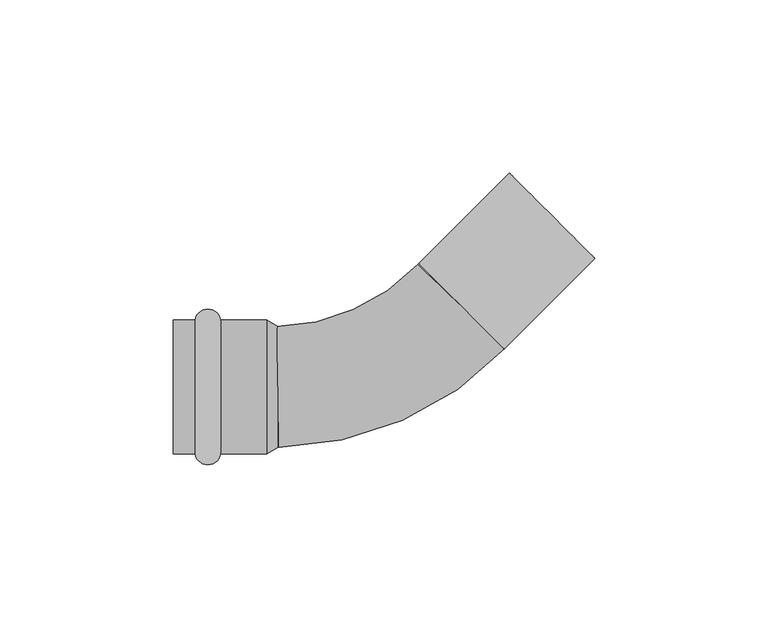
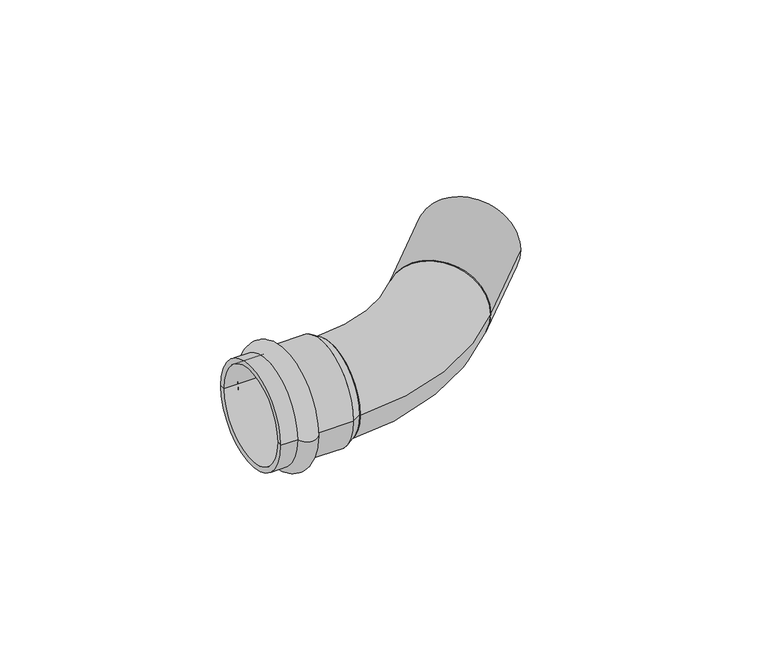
"""IFC4 building model written with IfcOpenShell, lengths in millimetres: pipe fitting geometry, VALTEC_VTi.958.I_Угольник 45° (раструб–труба) нержавеющая сталь. : VTi.958.I."""

from ifc_helpers import new_model, si_unit, point, frame, origin, origin_2d, place, context, project, spatial, polyline, circle_curve, ellipse_curve, trimmed, segment, composite_curve, outline, extrude, source, transform, mapped, element, save
from ifc_brep_helpers import plane_surface, cylinder_surface, revolved_surface, advanced_brep


def pipe_fitting_01824ef5(model_context):
    return source(origin(), model_context, "Body", "SolidModel", [
        advanced_brep(
        [(-53.6432371, -19.4, 0.0), (-53.6432371, 19.4, 0.0), (-46.2567629, 19.4, 0.0), (-46.2567629, -19.4, 0.0), (-60.0, -19.4, 0.0), (-60.0, 19.4, 0.0), (-60.0, -17.5, 0.0), (-60.0, 17.5, 0.0), (-33.0, -17.5, 0.0), (-33.0, 17.5, 0.0), (-33.0, -19.4, 0.0), (-33.0, 19.4, 0.0)],
        [
            (0, 1, circle_curve(frame((-53.6432371, 0.0, 0.0), z_axis=(1.0, 0.0, 0.0), x_axis=(0.0, 1.0, 0.0)), 19.4)),
            (1, 2, circle_curve(frame((-49.95, 18.75, 0.0), z_axis=(0.0, 0.0, -1.0), x_axis=(1.0, 0.0, 0.0)), 3.75)),
            (2, 3, circle_curve(frame((-46.2567629, 0.0, 0.0), z_axis=(-1.0, 0.0, 0.0), x_axis=(0.0, 1.0, 0.0)), 19.4)),
            (3, 0, circle_curve(frame((-49.95, -18.75, 0.0), z_axis=(0.0, 0.0, -1.0), x_axis=(1.0, 0.0, 0.0)), 3.75)),
            (1, 0, circle_curve(frame((-53.6432371, 0.0, 0.0), z_axis=(1.0, 0.0, 0.0), x_axis=(0.0, 1.0, 0.0)), 19.4)),
            (3, 2, circle_curve(frame((-46.2567629, 0.0, 0.0), z_axis=(-1.0, 0.0, 0.0), x_axis=(0.0, 1.0, 0.0)), 19.4)),
            (4, 5, circle_curve(frame((-60.0, 0.0, 0.0), z_axis=(1.0, 0.0, 0.0), x_axis=(0.0, 1.0, 0.0)), 19.4)),
            (5, 1),
            (0, 4),
            (5, 4, circle_curve(frame((-60.0, 0.0, 0.0), z_axis=(1.0, 0.0, 0.0), x_axis=(0.0, 1.0, 0.0)), 19.4)),
            (6, 7, circle_curve(frame((-60.0, 0.0, 0.0), z_axis=(1.0, 0.0, 0.0), x_axis=(0.0, 1.0, 0.0)), 17.5)),
            (7, 5),
            (4, 6),
            (7, 6, circle_curve(frame((-60.0, 0.0, 0.0), z_axis=(1.0, 0.0, 0.0), x_axis=(0.0, 1.0, 0.0)), 17.5)),
            (8, 9, circle_curve(frame((-33.0, 0.0, 0.0), z_axis=(1.0, 0.0, 0.0), x_axis=(0.0, 1.0, 0.0)), 17.5)),
            (9, 7),
            (6, 8),
            (9, 8, circle_curve(frame((-33.0, 0.0, 0.0), z_axis=(1.0, 0.0, 0.0), x_axis=(0.0, 1.0, 0.0)), 17.5)),
            (10, 11, circle_curve(frame((-33.0, 0.0, 0.0), z_axis=(1.0, 0.0, 0.0), x_axis=(0.0, 1.0, 0.0)), 19.4)),
            (11, 9),
            (8, 10),
            (11, 10, circle_curve(frame((-33.0, 0.0, 0.0), z_axis=(1.0, 0.0, 0.0), x_axis=(0.0, 1.0, 0.0)), 19.4)),
            (2, 11),
            (10, 3),
        ],
        [
            revolved_surface(trimmed(ellipse_curve(frame((-49.95, 18.75, 0.0), z_axis=(0.0, 0.0, 1.0), x_axis=(1.0, 0.0, 0.0)), 3.75, 3.75), [point((-46.2567629, 19.4, 0.0))], [point((-53.6432371, 19.4, 0.0))], True, "CARTESIAN"), (-63.5364426, 0.0, 0.0), (-1.0, 0.0, 0.0)),
            cylinder_surface(frame((-63.5364426, 0.0, 0.0), z_axis=(-1.0, 0.0, 0.0), x_axis=(0.0, 1.0, 0.0)), 19.4),
            plane_surface(frame((-60.0, 0.0, 0.0), z_axis=(-1.0, 0.0, 0.0), x_axis=(0.0, 1.0, 0.0))),
            revolved_surface(polyline([(-60.0, 17.5, 0.0), (-33.0, 17.5, 0.0)]), (-63.5364426, 0.0, 0.0), (-1.0, 0.0, 0.0)),
            plane_surface(frame((-33.0, 0.0, 0.0), z_axis=(1.0, 0.0, 0.0), x_axis=(0.0, 1.0, 0.0))),
        ],
        [
            (0, [[1, 2, 3, 4]]),
            (0, [[5, -4, 6, -2]]),
            (1, [[7, 8, -1, 9]]),
            (1, [[10, -9, -5, -8]]),
            (2, [[11, 12, -7, 13]]),
            (2, [[14, -13, -10, -12]]),
            (3, [[15, 16, -11, 17]]),
            (3, [[18, -17, -14, -16]]),
            (4, [[19, 20, -15, 21]]),
            (4, [[22, -21, -18, -20]]),
            (1, [[-3, 23, -19, 24]]),
            (1, [[-6, -24, -22, -23]]),
        ],
    ),
        extrude(outline(composite_curve([segment(trimmed(circle_curve(origin_2d(), 17.5), [point((0.0, -17.5))], [point((0.0, 17.5))], False, "CARTESIAN"), True, "CONTINUOUS"), segment(trimmed(circle_curve(origin_2d(), 17.5), [point((0.0, 17.5))], [point((0.0, -17.5))], False, "CARTESIAN"), True, "CONTINUOUS")], self_intersect=False)), frame((23.3345238, 23.3345238, 0.0), z_axis=(0.707106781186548, 0.707106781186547, 0.0), x_axis=(0.0, 0.0, 1.0)), (0.0, 0.0, 1.0), 37.0),
        advanced_brep(
        [(-29.4062423, -17.4975343, 0.0), (-29.9937577, 17.4975343, 0.0), (36.0361334, 11.2962884, 0.0), (10.6329141, 35.3727592, 0.0)],
        [
            (0, 1, circle_curve(frame((-29.7, 0.0, 0.0), z_axis=(-0.999859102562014, -0.01678615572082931, 0.0), x_axis=(-0.01678615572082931, 0.999859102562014, 0.0)), 17.5)),
            (1, 0, circle_curve(frame((-29.7, 0.0, 0.0), z_axis=(-0.999859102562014, -0.01678615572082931, 0.0), x_axis=(-0.01678615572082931, 0.999859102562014, 0.0)), 17.5)),
            (2, 3, circle_curve(frame((23.3345238, 23.3345238, 0.0), z_axis=(0.6878991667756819, 0.725806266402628, 0.0), x_axis=(-0.725806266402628, 0.6878991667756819, 0.0)), 17.5)),
            (3, 2, circle_curve(frame((23.3345238, 23.3345238, 0.0), z_axis=(0.6878991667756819, 0.725806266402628, 0.0), x_axis=(-0.725806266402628, 0.6878991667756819, 0.0)), 17.5)),
            (3, 1, circle_curve(frame((-30.9556002, 74.7892063, 0.0), z_axis=(0.0, 0.0, -1.0), x_axis=(0.016786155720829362, -0.999859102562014, 0.0)), 57.2997454)),
            (0, 2, circle_curve(frame((-30.9556002, 74.7892063, 0.0), z_axis=(0.0, 0.0, 1.0), x_axis=(0.016786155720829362, -0.999859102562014, 0.0)), 92.2997454)),
        ],
        [
            plane_surface(frame((-29.7, 0.0, 0.0), z_axis=(-0.999859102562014, -0.01678615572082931, 0.0), x_axis=(0.0, 0.0, 1.0))),
            plane_surface(frame((23.3345238, 23.3345238, 0.0), z_axis=(0.6878991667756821, 0.7258062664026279, 0.0), x_axis=(0.0, 0.0, 1.0))),
            revolved_surface(trimmed(ellipse_curve(frame((-29.7, 0.0, 0.0), z_axis=(-0.999859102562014, -0.01678615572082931, 0.0), x_axis=(-0.01678615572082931, 0.999859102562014, 0.0)), 17.5, 17.5), [point((-29.4062423, -17.4975343, 0.0))], [point((-29.9937577, 17.4975343, 0.0))], True, "CARTESIAN"), (-30.9556002, 74.7892063, 0.0), (0.0, 0.0, 1.0)),
            revolved_surface(trimmed(ellipse_curve(frame((-29.7, 0.0, 0.0), z_axis=(-0.999859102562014, -0.01678615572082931, 0.0), x_axis=(-0.01678615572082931, 0.999859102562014, 0.0)), 17.5, 17.5), [point((-29.9937577, 17.4975343, 0.0))], [point((-29.4062423, -17.4975343, 0.0))], True, "CARTESIAN"), (-30.9556002, 74.7892063, 0.0), (0.0, 0.0, 1.0)),
        ],
        [
            (0, [[1, 2]]),
            (1, [[3, 4]]),
            (2, [[5, -1, 6, -4]]),
            (3, [[-6, -2, -5, -3]]),
        ],
    ),
        advanced_brep(
        [(-33.0, -19.4, 0.0), (-33.0, 19.4, 0.0), (-29.7, -17.5, 0.0), (-29.7, 17.5, 0.0)],
        [
            (0, 1, circle_curve(frame((-33.0, 0.0, 0.0), z_axis=(-1.0, 0.0, 0.0), x_axis=(0.0, -1.0, 0.0)), 19.4)),
            (1, 0, circle_curve(frame((-33.0, 0.0, 0.0), z_axis=(-1.0, 0.0, 0.0), x_axis=(0.0, 1.0, 0.0)), 19.4)),
            (2, 3, circle_curve(frame((-29.7, 0.0, 0.0), z_axis=(1.0, 0.0, 0.0), x_axis=(0.0, 1.0, 0.0)), 17.5)),
            (3, 2, circle_curve(frame((-29.7, 0.0, 0.0), z_axis=(1.0, 0.0, 0.0), x_axis=(0.0, -1.0, 0.0)), 17.5)),
            (2, 0),
            (1, 3),
        ],
        [
            plane_surface(frame((-33.0, 0.0, 0.0), z_axis=(-1.0, 0.0, 0.0), x_axis=(0.0, 0.0, -1.0))),
            plane_surface(frame((-29.7, 0.0, 0.0), z_axis=(1.0, 0.0, 0.0), x_axis=(0.0, 0.0, -1.0))),
            revolved_surface(polyline([(-29.7, -17.49999999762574, 0.0), (-33.0, -19.4, 0.0)]), (0.6947368, 0.0, 0.0), (-1.0, 0.0, 0.0)),
            revolved_surface(polyline([(-29.7, 17.49999999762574, 0.0), (-33.0, 19.4, 0.0)]), (0.6947368, 0.0, 0.0), (-1.0, 0.0, 0.0)),
        ],
        [
            (0, [[1, 2]]),
            (1, [[3, 4]]),
            (2, [[-3, 5, -2, 6]]),
            (3, [[-4, -6, -1, -5]]),
        ],
    ),
    ])


if __name__ == "__main__":
    model = new_model("IFC4")
    model_context = context("Model", 3, world=origin())
    ifc_project = project(units=[si_unit("LENGTHUNIT", "METRE", prefix="MILLI")], contexts=[model_context])
    site = spatial("IfcSite", under=ifc_project)
    building = spatial("IfcBuilding", under=site)
    placement = place(None, origin())
    pipe_fitting_shape = pipe_fitting_01824ef5(model_context)
    element("IfcPipeFitting", 1, ObjectType="VALTEC_VTi.958.I_Угольник 45° (раструб–труба) нержавеющая сталь. : VTi.958.I", at=placement, inside=building, context=model_context, shape_type="MappedRepresentation", body=[
        mapped(pipe_fitting_shape, transform((0.0, 0.0, 0.0), x_axis=(1.0, 0.0, 0.0), y_axis=(0.0, 1.0, 0.0), z_axis=(0.0, 0.0, 1.0))),
    ])
    save(model, "model.ifc")
